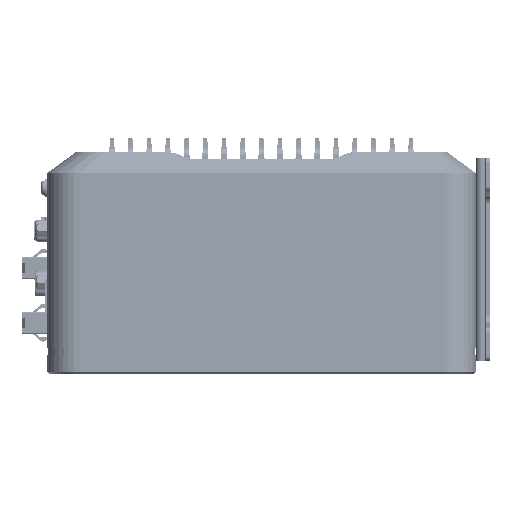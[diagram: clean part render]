
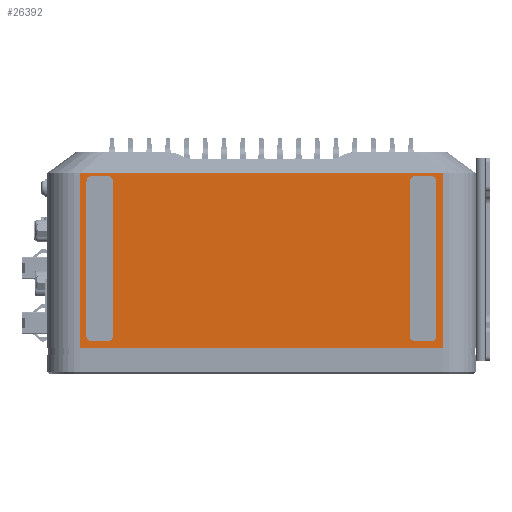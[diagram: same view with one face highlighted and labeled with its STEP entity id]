
A CAD part, front view. The second image highlights one B-rep face of the part: STEP entity #26392.
In plain terms, the highlighted planar face has unit normal (0, -1, 0).
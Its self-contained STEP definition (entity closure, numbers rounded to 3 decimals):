
#1349=DIRECTION('',(0.,0.,-1.));
#1350=VECTOR('',#1349,63.3);
#1351=CARTESIAN_POINT('',(-66.,-101.5,1.3));
#1352=LINE('',#1351,#1350);
#1868=DIRECTION('',(0.,0.,1.));
#1869=VECTOR('',#1868,63.3);
#1870=CARTESIAN_POINT('',(66.,-101.5,-62.));
#1871=LINE('',#1870,#1869);
#1918=DIRECTION('',(1.,0.,0.));
#1919=VECTOR('',#1918,132.);
#1920=CARTESIAN_POINT('',(-66.,-101.5,-62.));
#1921=LINE('',#1920,#1919);
#10197=DIRECTION('',(1.,0.,0.));
#10198=VECTOR('',#10197,132.);
#10199=CARTESIAN_POINT('',(-66.,-101.5,1.3));
#10200=LINE('',#10199,#10198);
#10201=CARTESIAN_POINT('',(-55.75,-101.5,-57.75));
#10202=DIRECTION('',(0.,-1.,0.));
#10203=DIRECTION('',(0.,0.,-1.));
#10204=AXIS2_PLACEMENT_3D('',#10201,#10202,#10203);
#10206=CARTESIAN_POINT('',(-55.75,-101.5,-1.75));
#10207=DIRECTION('',(0.,-1.,0.));
#10208=DIRECTION('',(1.,0.,0.));
#10209=AXIS2_PLACEMENT_3D('',#10206,#10207,#10208);
#10211=CARTESIAN_POINT('',(-61.75,-101.5,-1.75));
#10212=DIRECTION('',(0.,-1.,0.));
#10213=DIRECTION('',(0.,0.,1.));
#10214=AXIS2_PLACEMENT_3D('',#10211,#10212,#10213);
#10216=CARTESIAN_POINT('',(-61.75,-101.5,-57.75));
#10217=DIRECTION('',(0.,-1.,0.));
#10218=DIRECTION('',(-1.,0.,0.));
#10219=AXIS2_PLACEMENT_3D('',#10216,#10217,#10218);
#10221=CARTESIAN_POINT('',(55.75,-101.5,-57.75));
#10222=DIRECTION('',(0.,-1.,0.));
#10223=DIRECTION('',(-1.,0.,0.));
#10224=AXIS2_PLACEMENT_3D('',#10221,#10222,#10223);
#10226=CARTESIAN_POINT('',(61.75,-101.5,-57.75));
#10227=DIRECTION('',(0.,-1.,0.));
#10228=DIRECTION('',(0.,0.,-1.));
#10229=AXIS2_PLACEMENT_3D('',#10226,#10227,#10228);
#10231=CARTESIAN_POINT('',(61.75,-101.5,-1.75));
#10232=DIRECTION('',(0.,-1.,0.));
#10233=DIRECTION('',(1.,0.,0.));
#10234=AXIS2_PLACEMENT_3D('',#10231,#10232,#10233);
#10236=CARTESIAN_POINT('',(55.75,-101.5,-1.75));
#10237=DIRECTION('',(0.,-1.,0.));
#10238=DIRECTION('',(0.,0.,1.));
#10239=AXIS2_PLACEMENT_3D('',#10236,#10237,#10238);
#10249=DIRECTION('',(-1.,0.,0.));
#10250=VECTOR('',#10249,6.);
#10251=CARTESIAN_POINT('',(-55.75,-101.5,-59.6));
#10252=LINE('',#10251,#10250);
#10261=DIRECTION('',(0.,0.,1.));
#10262=VECTOR('',#10261,56.);
#10263=CARTESIAN_POINT('',(-63.6,-101.5,-57.75));
#10264=LINE('',#10263,#10262);
#10273=DIRECTION('',(1.,0.,0.));
#10274=VECTOR('',#10273,6.);
#10275=CARTESIAN_POINT('',(-61.75,-101.5,0.1));
#10276=LINE('',#10275,#10274);
#10285=DIRECTION('',(0.,0.,-1.));
#10286=VECTOR('',#10285,56.);
#10287=CARTESIAN_POINT('',(-53.9,-101.5,-1.75));
#10288=LINE('',#10287,#10286);
#10333=DIRECTION('',(0.,0.,1.));
#10334=VECTOR('',#10333,56.);
#10335=CARTESIAN_POINT('',(53.9,-101.5,-57.75));
#10336=LINE('',#10335,#10334);
#10345=DIRECTION('',(1.,0.,0.));
#10346=VECTOR('',#10345,6.);
#10347=CARTESIAN_POINT('',(55.75,-101.5,0.1));
#10348=LINE('',#10347,#10346);
#10357=DIRECTION('',(0.,0.,-1.));
#10358=VECTOR('',#10357,56.);
#10359=CARTESIAN_POINT('',(63.6,-101.5,-1.75));
#10360=LINE('',#10359,#10358);
#10369=DIRECTION('',(-1.,0.,0.));
#10370=VECTOR('',#10369,6.);
#10371=CARTESIAN_POINT('',(61.75,-101.5,-59.6));
#10372=LINE('',#10371,#10370);
#15086=CARTESIAN_POINT('',(66.,-101.5,1.3));
#15087=VERTEX_POINT('',#15086);
#15088=CARTESIAN_POINT('',(-66.,-101.5,1.3));
#15089=VERTEX_POINT('',#15088);
#15738=CARTESIAN_POINT('',(-66.,-101.5,-62.));
#15739=VERTEX_POINT('',#15738);
#15930=CARTESIAN_POINT('',(66.,-101.5,-62.));
#15931=VERTEX_POINT('',#15930);
#16028=CARTESIAN_POINT('',(-55.75,-101.5,-59.6));
#16029=CARTESIAN_POINT('',(-53.9,-101.5,-57.75));
#16030=VERTEX_POINT('',#16028);
#16031=VERTEX_POINT('',#16029);
#16032=CARTESIAN_POINT('',(-53.9,-101.5,-1.75));
#16033=VERTEX_POINT('',#16032);
#16034=CARTESIAN_POINT('',(-55.75,-101.5,0.1));
#16035=VERTEX_POINT('',#16034);
#16036=CARTESIAN_POINT('',(-61.75,-101.5,0.1));
#16037=VERTEX_POINT('',#16036);
#16038=CARTESIAN_POINT('',(-63.6,-101.5,-1.75));
#16039=VERTEX_POINT('',#16038);
#16040=CARTESIAN_POINT('',(-63.6,-101.5,-57.75));
#16041=VERTEX_POINT('',#16040);
#16042=CARTESIAN_POINT('',(-61.75,-101.5,-59.6));
#16043=VERTEX_POINT('',#16042);
#16044=CARTESIAN_POINT('',(53.9,-101.5,-57.75));
#16045=CARTESIAN_POINT('',(55.75,-101.5,-59.6));
#16046=VERTEX_POINT('',#16044);
#16047=VERTEX_POINT('',#16045);
#16048=CARTESIAN_POINT('',(61.75,-101.5,-59.6));
#16049=VERTEX_POINT('',#16048);
#16050=CARTESIAN_POINT('',(63.6,-101.5,-57.75));
#16051=VERTEX_POINT('',#16050);
#16052=CARTESIAN_POINT('',(63.6,-101.5,-1.75));
#16053=VERTEX_POINT('',#16052);
#16054=CARTESIAN_POINT('',(61.75,-101.5,0.1));
#16055=VERTEX_POINT('',#16054);
#16056=CARTESIAN_POINT('',(55.75,-101.5,0.1));
#16057=VERTEX_POINT('',#16056);
#16058=CARTESIAN_POINT('',(53.9,-101.5,-1.75));
#16059=VERTEX_POINT('',#16058);
#26345=CARTESIAN_POINT('',(78.,-101.5,-61.));
#26346=DIRECTION('',(0.,-1.,0.));
#26347=DIRECTION('',(-1.,0.,0.));
#26348=AXIS2_PLACEMENT_3D('',#26345,#26346,#26347);
#26349=PLANE('',#26348);
#26350=ORIENTED_EDGE('',*,*,#18996,.F.);
#26351=ORIENTED_EDGE('',*,*,#19024,.F.);
#26352=ORIENTED_EDGE('',*,*,#18391,.F.);
#26353=ORIENTED_EDGE('',*,*,#18544,.T.);
#26354=EDGE_LOOP('',(#26350,#26351,#26352,#26353));
#26355=FACE_OUTER_BOUND('',#26354,.F.);
#26357=ORIENTED_EDGE('',*,*,#26356,.T.);
#26359=ORIENTED_EDGE('',*,*,#26358,.F.);
#26361=ORIENTED_EDGE('',*,*,#26360,.T.);
#26363=ORIENTED_EDGE('',*,*,#26362,.F.);
#26365=ORIENTED_EDGE('',*,*,#26364,.T.);
#26367=ORIENTED_EDGE('',*,*,#26366,.F.);
#26369=ORIENTED_EDGE('',*,*,#26368,.T.);
#26371=ORIENTED_EDGE('',*,*,#26370,.F.);
#26372=EDGE_LOOP('',(#26357,#26359,#26361,#26363,#26365,#26367,#26369,#26371));
#26373=FACE_BOUND('',#26372,.F.);
#26375=ORIENTED_EDGE('',*,*,#26374,.T.);
#26377=ORIENTED_EDGE('',*,*,#26376,.F.);
#26379=ORIENTED_EDGE('',*,*,#26378,.T.);
#26381=ORIENTED_EDGE('',*,*,#26380,.F.);
#26383=ORIENTED_EDGE('',*,*,#26382,.T.);
#26385=ORIENTED_EDGE('',*,*,#26384,.F.);
#26387=ORIENTED_EDGE('',*,*,#26386,.T.);
#26389=ORIENTED_EDGE('',*,*,#26388,.F.);
#26390=EDGE_LOOP('',(#26375,#26377,#26379,#26381,#26383,#26385,#26387,#26389));
#26391=FACE_BOUND('',#26390,.F.);
#10205=CIRCLE('',#10204,1.85);
#10210=CIRCLE('',#10209,1.85);
#10215=CIRCLE('',#10214,1.85);
#10220=CIRCLE('',#10219,1.85);
#10225=CIRCLE('',#10224,1.85);
#10230=CIRCLE('',#10229,1.85);
#10235=CIRCLE('',#10234,1.85);
#10240=CIRCLE('',#10239,1.85);
#18391=EDGE_CURVE('',#15089,#15739,#1352,.T.);
#18544=EDGE_CURVE('',#15089,#15087,#10200,.T.);
#18996=EDGE_CURVE('',#15931,#15087,#1871,.T.);
#19024=EDGE_CURVE('',#15739,#15931,#1921,.T.);
#26356=EDGE_CURVE('',#16030,#16031,#10205,.T.);
#26358=EDGE_CURVE('',#16033,#16031,#10288,.T.);
#26360=EDGE_CURVE('',#16033,#16035,#10210,.T.);
#26362=EDGE_CURVE('',#16037,#16035,#10276,.T.);
#26364=EDGE_CURVE('',#16037,#16039,#10215,.T.);
#26366=EDGE_CURVE('',#16041,#16039,#10264,.T.);
#26368=EDGE_CURVE('',#16041,#16043,#10220,.T.);
#26370=EDGE_CURVE('',#16030,#16043,#10252,.T.);
#26374=EDGE_CURVE('',#16046,#16047,#10225,.T.);
#26376=EDGE_CURVE('',#16049,#16047,#10372,.T.);
#26378=EDGE_CURVE('',#16049,#16051,#10230,.T.);
#26380=EDGE_CURVE('',#16053,#16051,#10360,.T.);
#26382=EDGE_CURVE('',#16053,#16055,#10235,.T.);
#26384=EDGE_CURVE('',#16057,#16055,#10348,.T.);
#26386=EDGE_CURVE('',#16057,#16059,#10240,.T.);
#26388=EDGE_CURVE('',#16046,#16059,#10336,.T.);
#26392=ADVANCED_FACE('',(#26355,#26373,#26391),#26349,.T.);
